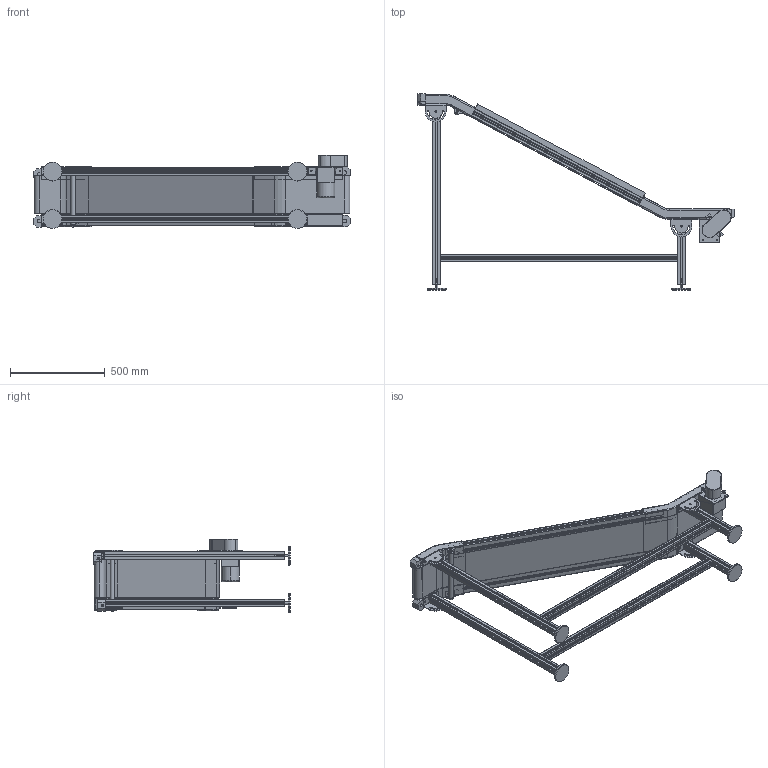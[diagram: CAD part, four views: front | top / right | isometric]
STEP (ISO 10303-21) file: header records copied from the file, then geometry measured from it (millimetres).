
FILE_DESCRIPTION(/* description */ (''),/* implementation_level */ '2;1');
FILE_NAME(/* name */ 'beltconveyor_a055_w200_l1800.stp',/* time_stamp */ '2024-12-22T22:18:35+08:00',/* author */ (''),/* organization */ (''),/* preprocessor_version */ 'ST-DEVELOPER v16.7',/* originating_system */ 'SIEMENS PLM Software NX 12.0',/* authorisation */ '');
FILE_SCHEMA (('AUTOMOTIVE_DESIGN { 1 0 10303 214 3 1 1 1 }'));
Length unit declared in the file: millimetre
Products named in the file (18): 零件6^斜坡输送带; SS0071-103-0_ﾃﾞﾌｫﾙﾄ; 1240; 滚筒-530; asd; 零件1; 滚筒-400; SS0071-104-0_ﾃﾞﾌｫﾙﾄ; 零件3^斜坡输送带; 马达; 360; SS0071-118-0; SS0071-101-0_ﾃﾞﾌｫﾙﾄ; 900; SS0071-102-0_ﾃﾞﾌｫﾙﾄ; 零件8; 零件7^斜坡输送带; beltconveyor_a055_w200_l1800
Assembly tree (36 placements, depth 2):
  beltconveyor_a055_w200_l1800
    零件7^斜坡输送带  x2
    零件8  x4
    SS0071-102-0_ﾃﾞﾌｫﾙﾄ
    900  x2
    SS0071-101-0_ﾃﾞﾌｫﾙﾄ  x4
    SS0071-118-0  x4
    360  x2
    马达
    零件3^斜坡输送带  x2
    SS0071-104-0_ﾃﾞﾌｫﾙﾄ  x4
    滚筒-400
    零件1  x2
    asd  x2
    滚筒-530
    1240  x2
    SS0071-103-0_ﾃﾞﾌｫﾙﾄ
    零件6^斜坡输送带
Bounding box: 1669.22 x 1036.08 x 385 mm (x, y, z)
Volume: 9481748.3 mm3; surface area: 6628515.7 mm2
Topology: 108 solids, 108 shells, 2505 faces, 6644 edges, 4372 vertices
Faces by surface type: plane 1359, extrusion 738, cylinder 364, torus 44
Full cylindrical faces by diameter (mm): 8 x4, 25 x2
Entity records: 43135 total; most frequent: CARTESIAN_POINT 13458, ORIENTED_EDGE 6528, DIRECTION 4687, EDGE_CURVE 3264, VERTEX_POINT 2156, VECTOR 2127, LINE 1758, B_SPLINE_CURVE_WITH_KNOTS 1499
